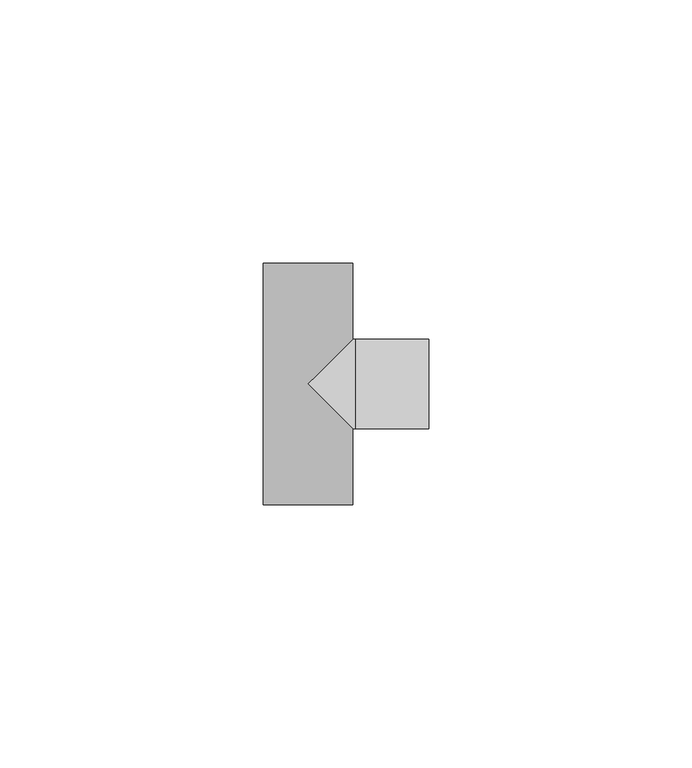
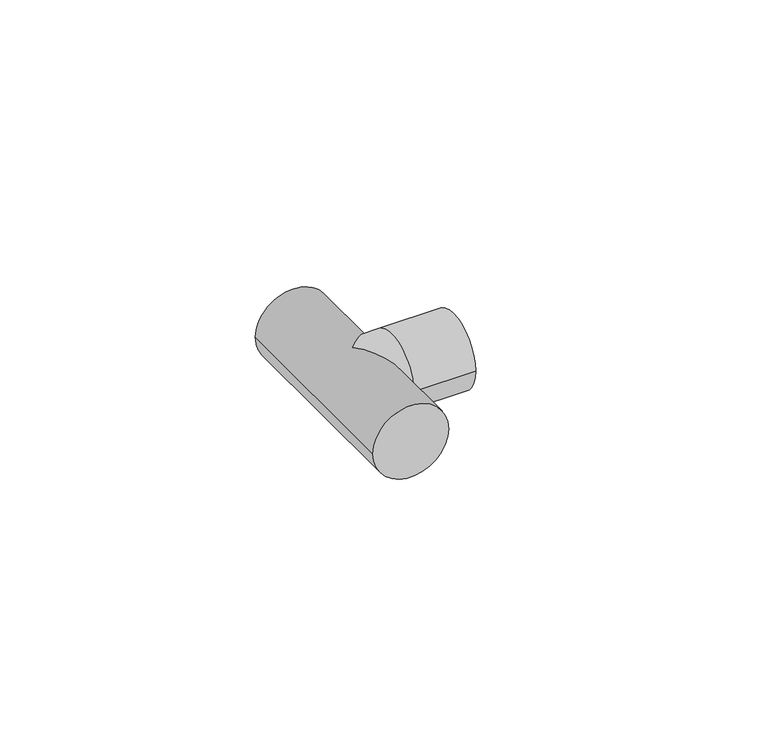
"""IFC4 building model written with IfcOpenShell, lengths in millimetres: pipe fitting geometry, 01051003 : Tes 90º."""

from ifc_helpers import new_model, si_unit, frame, origin, place, context, project, spatial, circle_curve, ellipse_curve, source, transform, mapped, element, save
from ifc_brep_helpers import plane_surface, cylinder_surface, advanced_brep


def pipe_fitting_7231df57(model_context):
    return source(origin(), model_context, "Body", "AdvancedBrep", [
        advanced_brep(
        [(-8.55, 23.0, 0.0), (8.55, 23.0, 0.0), (-8.55, -23.0, 0.0), (8.55, -23.0, 0.0), (8.55, -8.55, 0.0), (0.0, 0.0, 8.55), (8.55, 8.55, 0.0), (0.0, 0.0, -8.55), (23.0, 8.55, 0.0), (23.0, -8.55, 0.0), (9.0, -8.55, 0.0), (9.0, 8.55, 0.0)],
        [
            (0, 1, circle_curve(frame((0.0, 23.0, 0.0), z_axis=(0.0, 1.0, 0.0), x_axis=(1.0, 0.0, 0.0)), 8.55)),
            (1, 0, circle_curve(frame((0.0, 23.0, 0.0), z_axis=(0.0, 1.0, 0.0), x_axis=(1.0, 0.0, 0.0)), 8.55)),
            (2, 3, circle_curve(frame((0.0, -23.0, 0.0), z_axis=(0.0, -1.0, 0.0), x_axis=(1.0, 0.0, 0.0)), 8.55)),
            (3, 2, circle_curve(frame((0.0, -23.0, 0.0), z_axis=(0.0, -1.0, 0.0), x_axis=(1.0, 0.0, 0.0)), 8.55)),
            (0, 2),
            (3, 4),
            (4, 5, ellipse_curve(frame((0.0, 0.0, 0.0), z_axis=(-0.7071067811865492, -0.7071067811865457, 0.0), x_axis=(-0.7071067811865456, 0.7071067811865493, 0.0)), 12.091526, 8.55)),
            (5, 6, ellipse_curve(frame((0.0, 0.0, 0.0), z_axis=(-0.7071067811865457, 0.7071067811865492, 0.0), x_axis=(0.7071067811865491, 0.7071067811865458, 0.0)), 12.091526, 8.55)),
            (6, 1),
            (6, 7, ellipse_curve(frame((0.0, 0.0, 0.0), z_axis=(-0.7071067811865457, 0.7071067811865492, 0.0), x_axis=(0.7071067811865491, 0.7071067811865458, 0.0)), 12.091526, 8.55)),
            (7, 4, ellipse_curve(frame((0.0, 0.0, 0.0), z_axis=(-0.7071067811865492, -0.7071067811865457, 0.0), x_axis=(-0.7071067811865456, 0.7071067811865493, 0.0)), 12.091526, 8.55)),
            (8, 9, circle_curve(frame((23.0, 0.0, 0.0), z_axis=(1.0, 0.0, 0.0), x_axis=(0.0, -1.0, 0.0)), 8.55)),
            (9, 8, circle_curve(frame((23.0, 0.0, 0.0), z_axis=(1.0, 0.0, 0.0), x_axis=(0.0, -1.0, 0.0)), 8.55)),
            (10, 11, circle_curve(frame((9.0, 0.0, 0.0), z_axis=(-1.0, 0.0, 0.0), x_axis=(0.0, -1.0, 0.0)), 8.55)),
            (11, 6),
            (4, 10),
            (11, 10, circle_curve(frame((9.0, 0.0, 0.0), z_axis=(-1.0, 0.0, 0.0), x_axis=(0.0, -1.0, 0.0)), 8.55)),
            (8, 11),
            (10, 9),
        ],
        [
            plane_surface(frame((0.0, 23.0, 0.0), z_axis=(0.0, 1.0, 0.0), x_axis=(0.0, 0.0, 1.0))),
            plane_surface(frame((0.0, -23.0, 0.0), z_axis=(0.0, -1.0, 0.0), x_axis=(0.0, 0.0, 1.0))),
            cylinder_surface(frame((0.0, 23.0, 0.0), z_axis=(0.0, 1.0, 0.0), x_axis=(1.0, 0.0, 0.0)), 8.55),
            plane_surface(frame((23.0, 0.0, 0.0), z_axis=(1.0, 0.0, 0.0), x_axis=(0.0, 0.0, 1.0))),
            cylinder_surface(frame((9.0, 0.0, 0.0), z_axis=(1.0, 0.0, 0.0), x_axis=(0.0, -1.0, 0.0)), 8.55),
            cylinder_surface(frame((23.0, 0.0, 0.0), z_axis=(1.0, 0.0, 0.0), x_axis=(0.0, -1.0, 0.0)), 8.55),
        ],
        [
            (0, [[1, 2]]),
            (1, [[3, 4]]),
            (2, [[-1, 5, -4, 6, 7, 8, 9]]),
            (2, [[-2, -9, 10, 11, -6, -3, -5]]),
            (3, [[12, 13]]),
            (4, [[14, 15, -8, -7, 16]]),
            (4, [[17, -16, -11, -10, -15]]),
            (5, [[-12, 18, -14, 19]]),
            (5, [[-13, -19, -17, -18]]),
        ],
    ),
    ])


if __name__ == "__main__":
    model = new_model("IFC4")
    model_context = context("Model", 3, world=origin())
    ifc_project = project(units=[si_unit("LENGTHUNIT", "METRE", prefix="MILLI")], contexts=[model_context])
    site = spatial("IfcSite", under=ifc_project)
    building = spatial("IfcBuilding", under=site)
    placement = place(None, origin())
    pipe_fitting_shape = pipe_fitting_7231df57(model_context)
    element("IfcPipeFitting", 1, ObjectType="01051003 : Tes 90º", at=placement, inside=building, context=model_context, shape_type="MappedRepresentation", body=[
        mapped(pipe_fitting_shape, transform((0.0, 0.0, 0.0), x_axis=(1.0, 0.0, 0.0), y_axis=(0.0, 1.0, 0.0), z_axis=(0.0, 0.0, 1.0))),
    ])
    save(model, "model.ifc")
